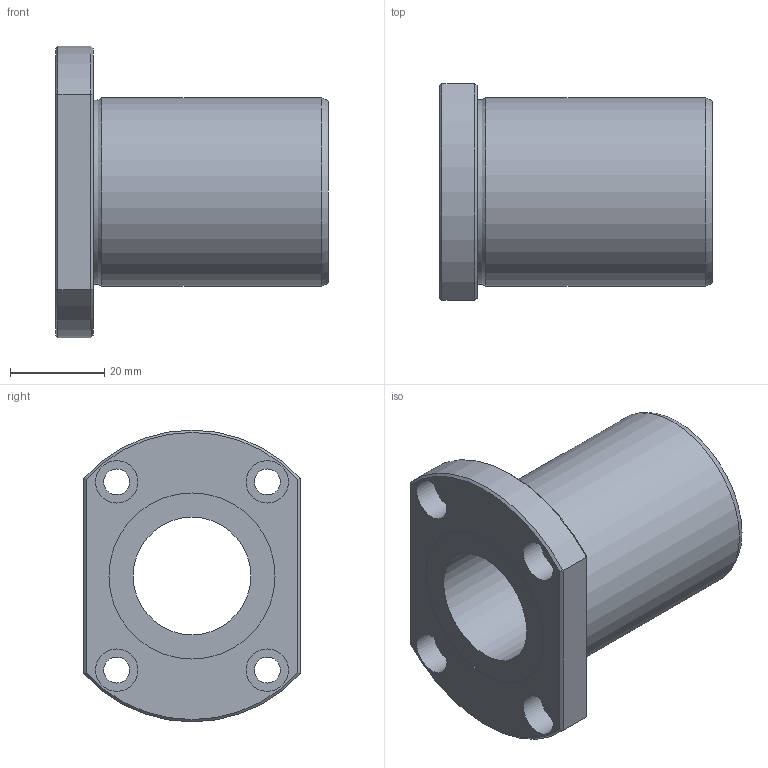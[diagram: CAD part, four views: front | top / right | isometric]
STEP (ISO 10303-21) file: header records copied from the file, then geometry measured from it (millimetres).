
FILE_DESCRIPTION((''),'2;1');
FILE_NAME('D:\製品 (図面)\カタログ用3D\リニアベアリング関連\STEP形式\LFT\LFT25B.stp','2010-06-04T09:18:20',('Tsuchiya'),(''),'Autodesk Inventor 10','Autodesk Inventor 10','');
FILE_SCHEMA(('AUTOMOTIVE_DESIGN { 1 0 10303 214 1 1 1 1 }'));
Length unit declared in the file: millimetre
Products named in the file (1): LFT25B
Bounding box: 58 x 46 x 62 mm (x, y, z)
Volume: 52969.5 mm3; surface area: 16962.6 mm2
Topology: 1 solids, 1 shells, 35 faces, 68 edges, 42 vertices
Faces by surface type: plane 15, cylinder 14, cone 4, torus 1, bspline 1
Full cylindrical faces by diameter (mm): 5.5 x4, 9 x4, 25 x1, 35.3 x2, 40 x1
Entity records: 935 total; most frequent: CARTESIAN_POINT 218, DIRECTION 150, ORIENTED_EDGE 108, AXIS2_PLACEMENT_3D 69, EDGE_LOOP 66, EDGE_CURVE 54, VERTEX_POINT 42, FACE_OUTER_BOUND 35
